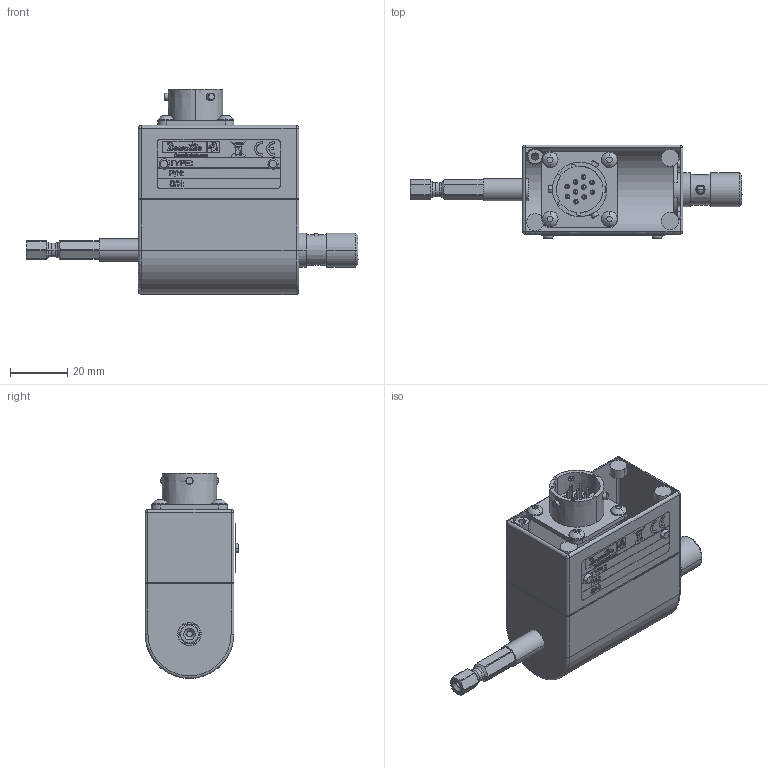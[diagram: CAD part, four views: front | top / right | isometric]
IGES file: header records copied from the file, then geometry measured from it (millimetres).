
Start section:  PTC IGES file: 6151652190.igs
Global section: file name: 6151652190.igs; native system: Creo Parametric by Parametric Technology Corporation; preprocessor: 2013410; author: greextsd; organization: Unknown; date: 20140613.115412; units: millimetre
Bounding box: 115.8 x 32.75 x 71.52 mm (x, y, z)
Surface area: 16371 mm2 (no closed solid volume)
Topology: 0 solids, 44 shells, 318 faces, 1837 edges, 1548 vertices
Faces by surface type: revolution 176, bspline 141, extrusion 1
